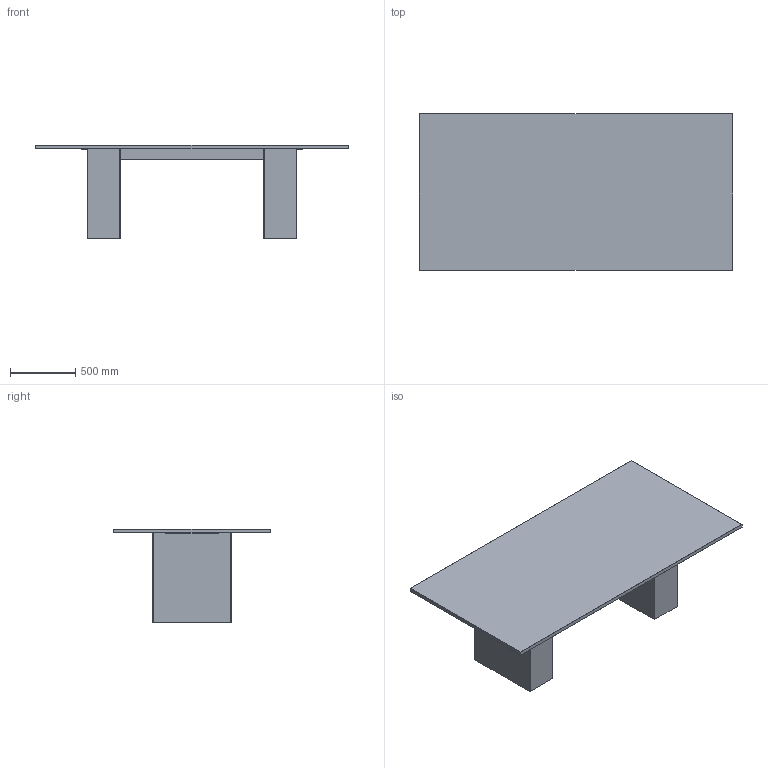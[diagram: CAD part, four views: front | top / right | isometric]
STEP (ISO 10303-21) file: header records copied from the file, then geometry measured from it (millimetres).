
FILE_DESCRIPTION(/* description */ (''),/* implementation_level */ '2;1');
FILE_NAME(/* name */ 'kinoshita_abord_at006-2400-1200',/* time_stamp */ '2025-08-25T18:18:03+09:00',/* author */ (''),/* organization */ (''),/* preprocessor_version */ 'ST-DEVELOPER v16.5',/* originating_system */ '',/* authorisation */ '');
FILE_SCHEMA (('AUTOMOTIVE_DESIGN'));
Length unit declared in the file: millimetre
Products named in the file (1): Document
Bounding box: 2400 x 1200 x 720 mm (x, y, z)
Volume: 387875246.8 mm3; surface area: 15794230.8 mm2
Topology: 23 solids, 23 shells, 354 faces, 884 edges, 552 vertices
Faces by surface type: bspline 208, plane 146
Entity records: 13251 total; most frequent: CARTESIAN_POINT 8024, ORIENTED_EDGE 1704, EDGE_CURVE 852, VERTEX_POINT 552, B_SPLINE_CURVE_WITH_KNOTS 416, EDGE_LOOP 402, ADVANCED_FACE 354, FACE_OUTER_BOUND 354
